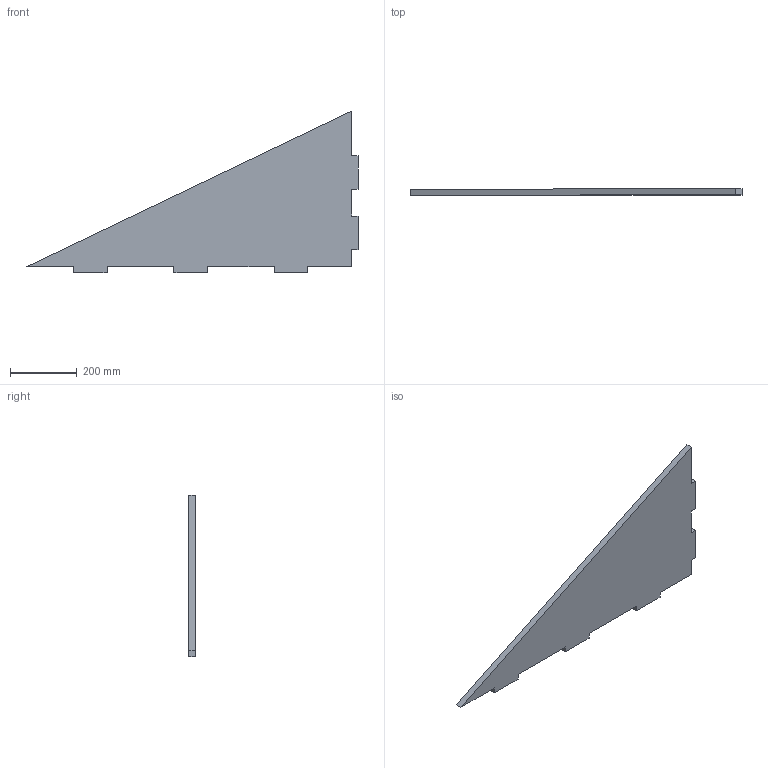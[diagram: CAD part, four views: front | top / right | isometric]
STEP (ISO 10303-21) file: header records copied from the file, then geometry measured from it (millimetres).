
FILE_DESCRIPTION(('Open CASCADE Model'),'2;1');
FILE_NAME('Open CASCADE Shape Model','2026-09-27T16:12:29',('Author'),( 'Open CASCADE'),'Open CASCADE STEP processor 7.9','Open CASCADE 7.9' ,'Unknown');
FILE_SCHEMA(('AUTOMOTIVE_DESIGN { 1 0 10303 214 1 1 1 1 }'));
Length unit declared in the file: millimetre
Products named in the file (1): Open CASCADE STEP translator 7.9 6
Bounding box: 992.24 x 18 x 483.76 mm (x, y, z)
Volume: 4245846.1 mm3; surface area: 520357.9 mm2
Topology: 1 solids, 1 shells, 25 faces, 69 edges, 46 vertices
Faces by surface type: plane 25
Entity records: 1690 total; most frequent: CARTESIAN_POINT 279, DIRECTION 259, LINE 207, VECTOR 207, ORIENTED_EDGE 138, PCURVE 138, DEFINITIONAL_REPRESENTATION 138, EDGE_CURVE 69
